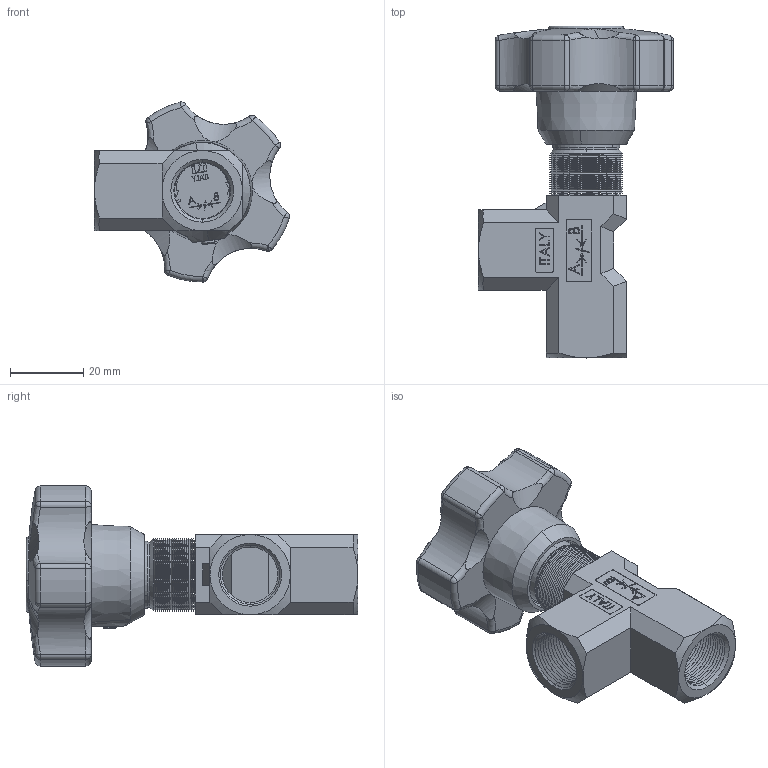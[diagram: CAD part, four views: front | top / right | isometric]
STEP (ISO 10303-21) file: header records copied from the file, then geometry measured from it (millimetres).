
FILE_DESCRIPTION (( 'STEP AP214' ), '1' );
FILE_NAME ('252-2-38 VOLANTINO ABS F-F.STEP', '2015-05-15T15:39:11', ( '' ), ( '' ), 'SwSTEP 2.0', 'SolidWorks 2014', '' );
FILE_SCHEMA (( 'AUTOMOTIVE_DESIGN' ));
Length unit declared in the file: millimetre
Products named in the file (1): 252-2-38 VOLANTINO ABS F-F
Bounding box: 53.39 x 90.84 x 49.3 mm (x, y, z)
Surface area: 16315.3 mm2 (no closed solid volume)
Topology: 0 solids, 38 shells, 538 faces, 1851 edges, 1273 vertices
Faces by surface type: plane 197, cone 154, cylinder 75, bspline 61, sphere 28, torus 23
Entity records: 30071 total; most frequent: CARTESIAN_POINT 8977, DIRECTION 2998, ORIENTED_EDGE 2902, EDGE_CURVE 1835, VERTEX_POINT 1265, LINE 1070, VECTOR 1070, AXIS2_PLACEMENT_3D 964
